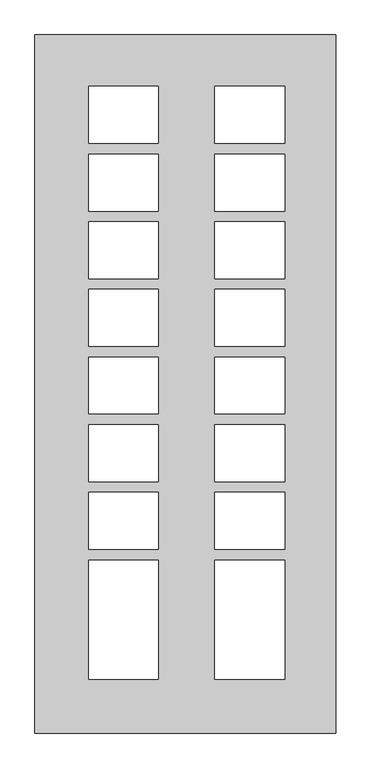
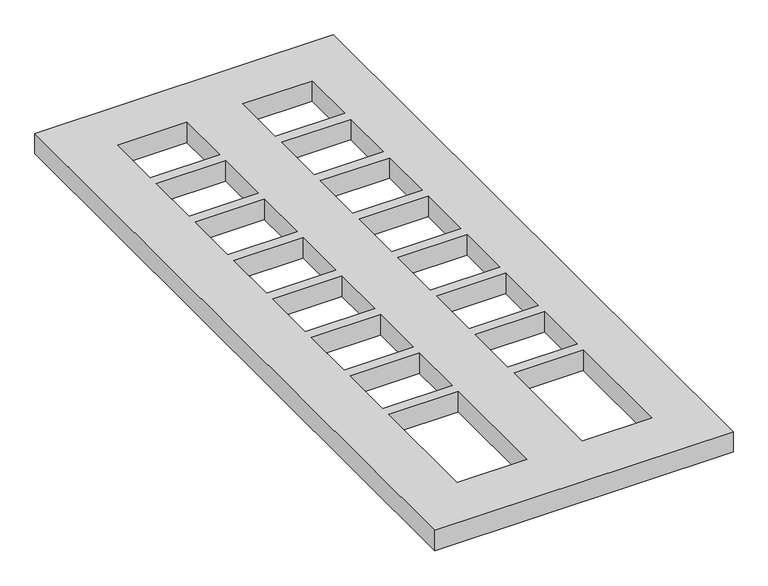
"""IFC4 building model written with IfcOpenShell, lengths in millimetres: proxy geometry, Modelos genéricos 116 : Modelos genéricos 1."""

from ifc_helpers import new_model, si_unit, frame, origin, place, context, project, spatial, polyline, outline, extrude, source, transform, mapped, element, save


def generic_models_c84cfed6(model_context):
    return source(origin(), model_context, "Body", "SweptSolid", [
        extrude(outline(polyline([(-14533.8045356, 8415.6842826), (-13133.8045356, 8415.6842826), (-13133.8045356, 5164.9157827), (-14533.8045356, 5164.9157827), (-14533.8045356, 8415.6842826)]), holes=[polyline([(-14283.8045356, 5970.6842826), (-14283.8045356, 5414.7267933), (-13958.8045356, 5414.7267933), (-13958.8045356, 5970.6842826), (-14283.8045356, 5970.6842826)]), polyline([(-14283.8045356, 6285.6842826), (-14283.8045356, 6020.6842826), (-13958.8045356, 6020.6842826), (-13958.8045356, 6285.6842826), (-14283.8045356, 6285.6842826)]), polyline([(-14283.8045356, 6600.6842826), (-14283.8045356, 6335.6842826), (-13958.8045356, 6335.6842826), (-13958.8045356, 6600.6842826), (-14283.8045356, 6600.6842826)]), polyline([(-14283.8045356, 6915.6842826), (-14283.8045356, 6650.6842826), (-13958.8045356, 6650.6842826), (-13958.8045356, 6915.6842826), (-14283.8045356, 6915.6842826)]), polyline([(-14283.8045356, 7230.6842826), (-14283.8045356, 6965.6842826), (-13958.8045356, 6965.6842826), (-13958.8045356, 7230.6842826), (-14283.8045356, 7230.6842826)]), polyline([(-14283.8045356, 7545.6842826), (-14283.8045356, 7280.6842826), (-13958.8045356, 7280.6842826), (-13958.8045356, 7545.6842826), (-14283.8045356, 7545.6842826)]), polyline([(-14283.8045356, 7860.6842826), (-14283.8045356, 7595.6842826), (-13958.8045356, 7595.6842826), (-13958.8045356, 7860.6842826), (-14283.8045356, 7860.6842826)]), polyline([(-13371.4616631, 5970.6842826), (-13696.4616631, 5970.6842826), (-13696.4616631, 5414.7267933), (-13371.4616631, 5414.7267933), (-13371.4616631, 5970.6842826)]), polyline([(-13371.4616631, 6285.6842826), (-13696.4616631, 6285.6842826), (-13696.4616631, 6020.6842826), (-13371.4616631, 6020.6842826), (-13371.4616631, 6285.6842826)]), polyline([(-13371.4616631, 6600.6842826), (-13696.4616631, 6600.6842826), (-13696.4616631, 6335.6842826), (-13371.4616631, 6335.6842826), (-13371.4616631, 6600.6842826)]), polyline([(-13371.4616631, 6915.6842826), (-13696.4616631, 6915.6842826), (-13696.4616631, 6650.6842826), (-13371.4616631, 6650.6842826), (-13371.4616631, 6915.6842826)]), polyline([(-13371.4616631, 7230.6842826), (-13696.4616631, 7230.6842826), (-13696.4616631, 6965.6842826), (-13371.4616631, 6965.6842826), (-13371.4616631, 7230.6842826)]), polyline([(-13371.4616631, 7545.6842826), (-13696.4616631, 7545.6842826), (-13696.4616631, 7280.6842826), (-13371.4616631, 7280.6842826), (-13371.4616631, 7545.6842826)]), polyline([(-13371.4616631, 7860.6842826), (-13696.4616631, 7860.6842826), (-13696.4616631, 7595.6842826), (-13371.4616631, 7595.6842826), (-13371.4616631, 7860.6842826)]), polyline([(-13958.8045356, 8175.6842826), (-14283.8045356, 8175.6842826), (-14283.8045356, 7910.6842826), (-13958.8045356, 7910.6842826), (-13958.8045356, 8175.6842826)]), polyline([(-13371.4616631, 7910.6842826), (-13371.4616631, 8175.6842826), (-13696.4616631, 8175.6842826), (-13696.4616631, 7910.6842826), (-13371.4616631, 7910.6842826)])]), frame((0.0, 0.0, 800.0), z_axis=(0.0, 0.0, 1.0), x_axis=(1.0, 0.0, 0.0)), (0.0, 0.0, 1.0), 100.0),
    ])


if __name__ == "__main__":
    model = new_model("IFC4")
    model_context = context("Model", 3, world=origin())
    ifc_project = project(units=[si_unit("LENGTHUNIT", "METRE", prefix="MILLI")], contexts=[model_context])
    site = spatial("IfcSite", under=ifc_project)
    building = spatial("IfcBuilding", under=site)
    placement = place(None, origin())
    generic_models_shape = generic_models_c84cfed6(model_context)
    element("IfcBuildingElementProxy", 1, Name="Modelos genéricos 116 : Modelos genéricos 1", ObjectType="Modelos genéricos 116 : Modelos genéricos 1", at=placement, inside=building, context=model_context, shape_type="MappedRepresentation", body=[
        mapped(generic_models_shape, transform((0.0, 0.0, 0.0), x_axis=(1.0, 0.0, 0.0), y_axis=(0.0, 1.0, 0.0), z_axis=(0.0, 0.0, 1.0))),
    ])
    save(model, "model.ifc")
